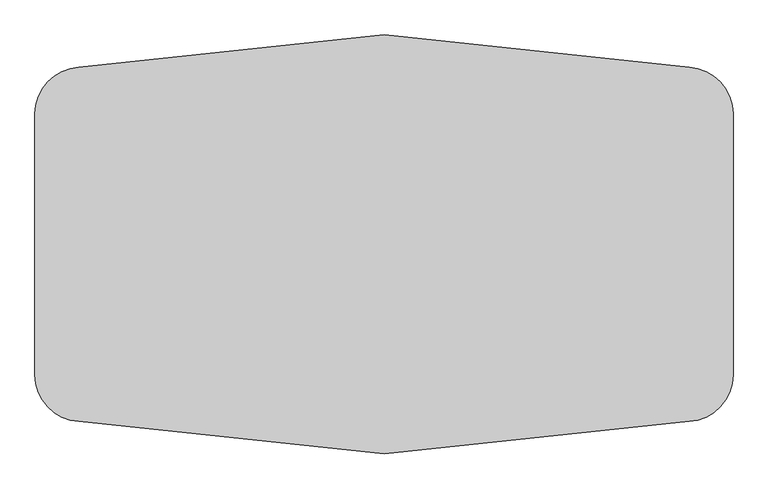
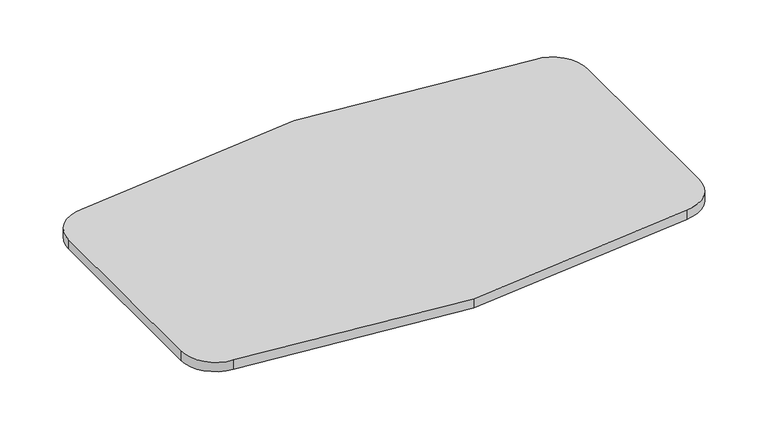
"""IFC4 building model written with IfcOpenShell, lengths in millimetres: furniture geometry, Steelcase - Answer Solution - Universal Table - Hex Conference : 36D x 60W."""

from ifc_helpers import new_model, si_unit, point, frame, frame_2d, origin, place, context, project, spatial, polyline, circle_curve, trimmed, segment, composite_curve, outline, extrude, source, transform, mapped, element, save


def furniture_d9c778b3(model_context):
    return source(origin(), model_context, "Body", "SweptSolid", [
        extrude(outline(composite_curve([segment(trimmed(circle_curve(frame_2d((98.425, -302.7314557)), 101.6), [point((-3.175, -302.7314557))], [point((92.789246, -201.2878838))], False, "CARTESIAN"), True, "CONTINUOUS"), segment(polyline([(92.789246, -201.2878838), (758.825, -130.4192308), (1424.860754, -201.2878838)]), True, "CONTINUOUS"), segment(trimmed(circle_curve(frame_2d((1419.225, -302.7314557)), 101.6), [point((1424.860754, -201.2878838))], [point((1520.825, -302.7314557))], False, "CARTESIAN"), True, "CONTINUOUS"), segment(polyline([(1520.825, -302.7314557), (1520.825, -872.5070059)]), True, "CONTINUOUS"), segment(trimmed(circle_curve(frame_2d((1419.225, -872.5070059)), 101.6), [point((1520.825, -872.5070059))], [point((1424.860754, -973.9505778))], False, "CARTESIAN"), True, "CONTINUOUS"), segment(polyline([(1424.860754, -973.9505778), (758.825, -1044.8192308), (92.789246, -973.9505778)]), True, "CONTINUOUS"), segment(trimmed(circle_curve(frame_2d((98.425, -872.5070059)), 101.6), [point((92.789246, -973.9505778))], [point((-3.175, -872.5070059))], False, "CARTESIAN"), True, "CONTINUOUS"), segment(polyline([(-3.175, -872.5070059), (-3.175, -302.7314557)]), True, "CONTINUOUS")], self_intersect=False)), frame((0.0, 0.0, 668.274), z_axis=(0.0, 0.0, 1.0), x_axis=(1.0, 0.0, 0.0)), (0.0, 0.0, 1.0), 28.575),
    ])


if __name__ == "__main__":
    model = new_model("IFC4")
    model_context = context("Model", 3, world=origin())
    ifc_project = project(units=[si_unit("LENGTHUNIT", "METRE", prefix="MILLI")], contexts=[model_context])
    site = spatial("IfcSite", under=ifc_project)
    building = spatial("IfcBuilding", under=site)
    placement = place(None, origin())
    furniture_shape = furniture_d9c778b3(model_context)
    element("IfcFurniture", 1, ObjectType="Steelcase - Answer Solution - Universal Table - Hex Conference : 36D x 60W", at=placement, inside=building, context=model_context, shape_type="MappedRepresentation", body=[
        mapped(furniture_shape, transform((0.0, 0.0, 0.0), x_axis=(1.0, 0.0, 0.0), y_axis=(0.0, 1.0, 0.0), z_axis=(0.0, 0.0, 1.0))),
    ])
    save(model, "model.ifc")
